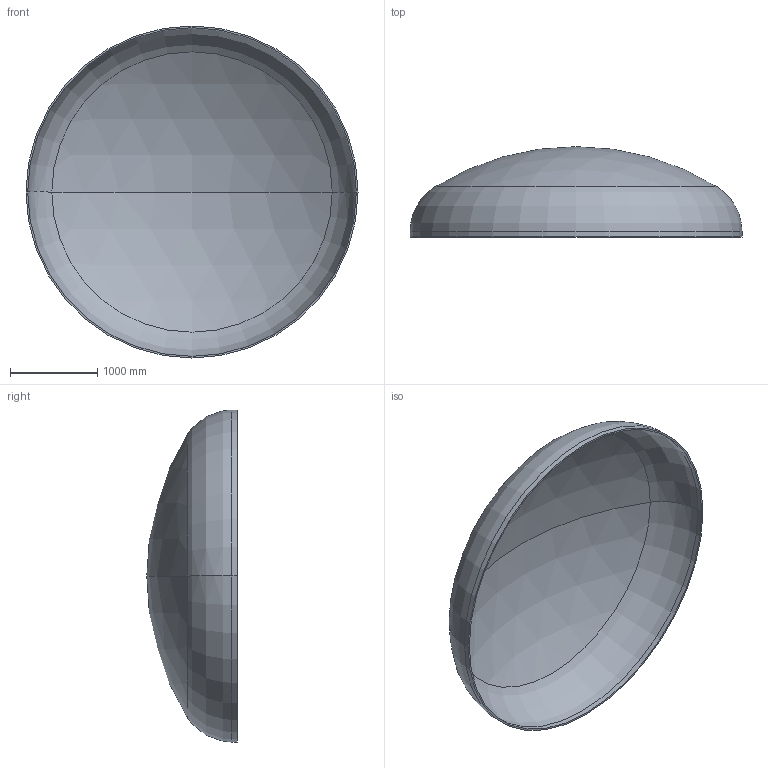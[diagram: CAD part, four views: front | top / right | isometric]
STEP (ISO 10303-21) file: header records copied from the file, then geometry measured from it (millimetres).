
FILE_DESCRIPTION (( 'STEP AP203' ), '1' );
FILE_NAME ('DIN 28013 Korbbogenform_-_Boden DIN 28013 - 3800 x 60 - I - s=19.step', '2016-07-01T21:07:52', ( '' ), ( '' ), 'SwSTEP 2.0', 'SolidWorks 2013', '' );
FILE_SCHEMA (( 'CONFIG_CONTROL_DESIGN' ));
Length unit declared in the file: millimetre
Products named in the file (1): DIN 28013 Korbbogenform_-_Boden DIN 28013 - 3800 x 60 - I - s=19
Bounding box: 3800 x 1033.96 x 3800 mm (x, y, z)
Volume: 310005091.4 mm3; surface area: 32858546.9 mm2
Topology: 1 solids, 1 shells, 13 faces, 24 edges, 14 vertices
Faces by surface type: torus 4, cylinder 4, sphere 4, plane 1
Entity records: 407 total; most frequent: DIRECTION 72, CARTESIAN_POINT 52, ORIENTED_EDGE 48, AXIS2_PLACEMENT_3D 34, EDGE_CURVE 24, CIRCLE 20, EDGE_LOOP 14, VERTEX_POINT 14
